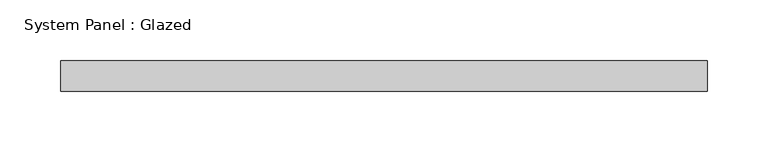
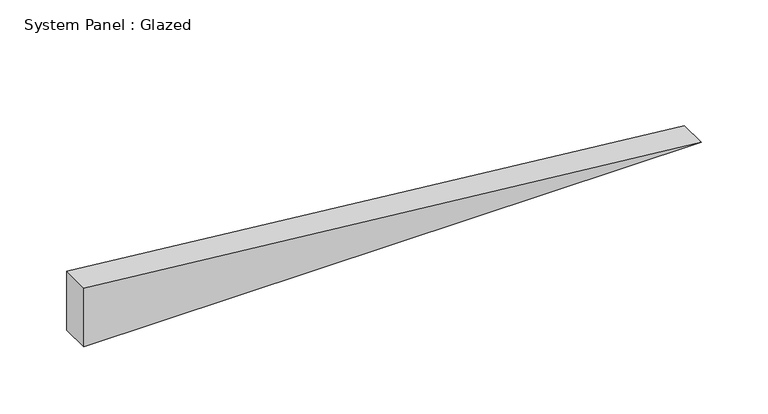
"""IFC4 building model written with IfcOpenShell, lengths in millimetres: plate geometry, System Panel : Glazed."""

from ifc_helpers import new_model, si_unit, frame, origin, place, context, project, spatial, polyline, outline, extrude, source, transform, mapped, element, save


def system_panel_glazed_b1796bd7(model_context):
    return source(origin(), model_context, "Body", "SweptSolid", [
        extrude(outline(polyline([(0.0, -266.1205595), (0.0, 266.1205595), (53.5167032, -266.1205595), (0.0, -266.1205595)])), frame((0.0, 24.5, 0.0), z_axis=(0.0, 1.0, 0.0), x_axis=(0.0, 0.0, 1.0)), (0.0, 0.0, 1.0), 25.0),
    ])


if __name__ == "__main__":
    model = new_model("IFC4")
    model_context = context("Model", 3, world=origin())
    ifc_project = project(units=[si_unit("LENGTHUNIT", "METRE", prefix="MILLI")], contexts=[model_context])
    site = spatial("IfcSite", under=ifc_project)
    building = spatial("IfcBuilding", under=site)
    placement = place(None, origin())
    system_panel_glazed_shape = system_panel_glazed_b1796bd7(model_context)
    element("IfcPlate", 1, ObjectType="System Panel : Glazed", at=placement, inside=building, context=model_context, shape_type="MappedRepresentation", body=[
        mapped(system_panel_glazed_shape, transform((0.0, 0.0, 0.0), x_axis=(1.0, 0.0, 0.0), y_axis=(0.0, 1.0, 0.0), z_axis=(0.0, 0.0, 1.0))),
    ])
    save(model, "model.ifc")
